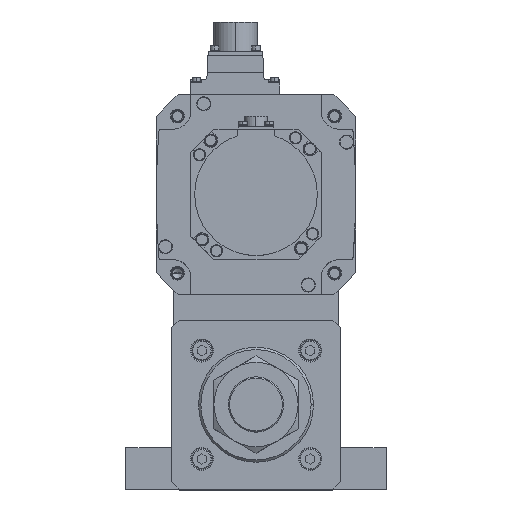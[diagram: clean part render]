
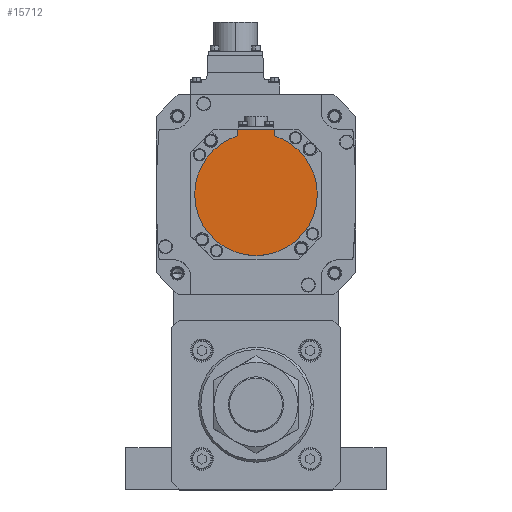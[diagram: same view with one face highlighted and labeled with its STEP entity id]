
A CAD part, top view. The second image highlights one B-rep face of the part: STEP entity #15712.
In plain terms, the highlighted planar face has unit normal (0, 0, 1) as drawn and (0, 0, -1) by its records, which use the part's own axes.
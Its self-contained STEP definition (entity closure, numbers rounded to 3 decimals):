
#151 = LINE ( 'NONE', #29712, #25830 ) ;
#1711 = EDGE_CURVE ( 'NONE', #33850, #33985, #14292, .T. ) ;
#2053 = CARTESIAN_POINT ( 'NONE',  ( 0., 0., -132.5 ) ) ;
#2314 = PLANE ( 'NONE',  #34832 ) ;
#2818 = CARTESIAN_POINT ( 'NONE',  ( 12., -42.5, -132.5 ) ) ;
#3022 = DIRECTION ( 'NONE',  ( 0., 0., 1. ) ) ;
#3747 = VERTEX_POINT ( 'NONE', #11755 ) ;
#3808 = ORIENTED_EDGE ( 'NONE', *, *, #19283, .F. ) ;
#3815 = CARTESIAN_POINT ( 'NONE',  ( 0., 0., -132.5 ) ) ;
#5493 = CARTESIAN_POINT ( 'NONE',  ( 0., 0., -132.5 ) ) ;
#5816 = ORIENTED_EDGE ( 'NONE', *, *, #11400, .T. ) ;
#6307 = ORIENTED_EDGE ( 'NONE', *, *, #30694, .F. ) ;
#6979 = CARTESIAN_POINT ( 'NONE',  ( -40., 0., -132.5 ) ) ;
#7021 = ORIENTED_EDGE ( 'NONE', *, *, #18459, .F. ) ;
#7712 = CARTESIAN_POINT ( 'NONE',  ( 0., -1.249, -132.5 ) ) ;
#8401 = FACE_OUTER_BOUND ( 'NONE', #25070, .T. ) ;
#9081 = CIRCLE ( 'NONE', #9137, 40. ) ;
#9119 = CARTESIAN_POINT ( 'NONE',  ( -12., -38.158, -132.5 ) ) ;
#9137 = AXIS2_PLACEMENT_3D ( 'NONE', #2053, #26086, #12519 ) ;
#11177 = EDGE_CURVE ( 'NONE', #25824, #3747, #22601, .T. ) ;
#11400 = EDGE_CURVE ( 'NONE', #25433, #33850, #22162, .T. ) ;
#11755 = CARTESIAN_POINT ( 'NONE',  ( 40., 0., -132.5 ) ) ;
#12519 = DIRECTION ( 'NONE',  ( 1., 0., 0. ) ) ;
#13773 = DIRECTION ( 'NONE',  ( 0., 1., 0. ) ) ;
#14292 = LINE ( 'NONE', #16971, #23144 ) ;
#14777 = DIRECTION ( 'NONE',  ( 1., 0., 0. ) ) ;
#15269 = CARTESIAN_POINT ( 'NONE',  ( 12., -38.158, -132.5 ) ) ;
#15712 = ADVANCED_FACE ( 'NONE', ( #8401 ), #2314, .F. ) ;
#15800 = CIRCLE ( 'NONE', #28177, 40. ) ;
#15852 = DIRECTION ( 'NONE',  ( 0., 0., 1. ) ) ;
#16631 = VERTEX_POINT ( 'NONE', #6979 ) ;
#16971 = CARTESIAN_POINT ( 'NONE',  ( -12., -40.329, -132.5 ) ) ;
#18459 = EDGE_CURVE ( 'NONE', #16631, #33985, #9081, .T. ) ;
#19283 = EDGE_CURVE ( 'NONE', #3747, #16631, #15800, .T. ) ;
#22162 = LINE ( 'NONE', #31644, #31460 ) ;
#22601 = CIRCLE ( 'NONE', #27980, 40. ) ;
#22675 = DIRECTION ( 'NONE',  ( 0., 0., 1. ) ) ;
#23144 = VECTOR ( 'NONE', #30651, 1000. ) ;
#25070 = EDGE_LOOP ( 'NONE', ( #32308, #7021, #3808, #28931, #6307, #5816 ) ) ;
#25433 = VERTEX_POINT ( 'NONE', #2818 ) ;
#25824 = VERTEX_POINT ( 'NONE', #15269 ) ;
#25830 = VECTOR ( 'NONE', #13773, 1000. ) ;
#26086 = DIRECTION ( 'NONE',  ( 0., 0., 1. ) ) ;
#26093 = DIRECTION ( 'NONE',  ( -1., 0., 0. ) ) ;
#26598 = DIRECTION ( 'NONE',  ( 1., 0., 0. ) ) ;
#26852 = CARTESIAN_POINT ( 'NONE',  ( -12., -42.5, -132.5 ) ) ;
#27980 = AXIS2_PLACEMENT_3D ( 'NONE', #3815, #22675, #14777 ) ;
#28177 = AXIS2_PLACEMENT_3D ( 'NONE', #5493, #3022, #32492 ) ;
#28931 = ORIENTED_EDGE ( 'NONE', *, *, #11177, .F. ) ;
#29712 = CARTESIAN_POINT ( 'NONE',  ( 12., -1.249, -132.5 ) ) ;
#30651 = DIRECTION ( 'NONE',  ( 0., 1., 0. ) ) ;
#30694 = EDGE_CURVE ( 'NONE', #25433, #25824, #151, .T. ) ;
#31460 = VECTOR ( 'NONE', #26093, 1000. ) ;
#31644 = CARTESIAN_POINT ( 'NONE',  ( 0., -42.5, -132.5 ) ) ;
#32308 = ORIENTED_EDGE ( 'NONE', *, *, #1711, .T. ) ;
#32492 = DIRECTION ( 'NONE',  ( 1., 0., 0. ) ) ;
#33850 = VERTEX_POINT ( 'NONE', #26852 ) ;
#33985 = VERTEX_POINT ( 'NONE', #9119 ) ;
#34832 = AXIS2_PLACEMENT_3D ( 'NONE', #7712, #15852, #26598 ) ;
